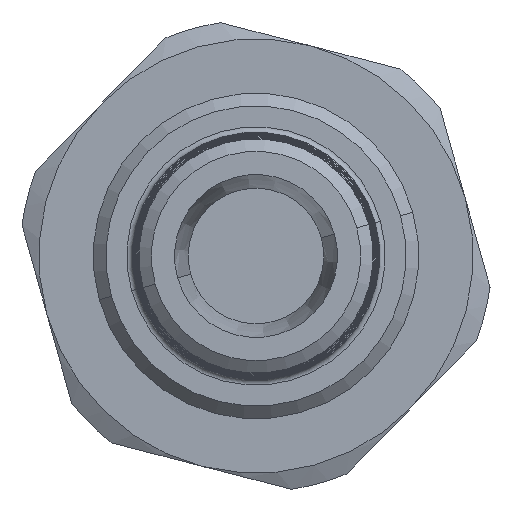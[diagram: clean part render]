
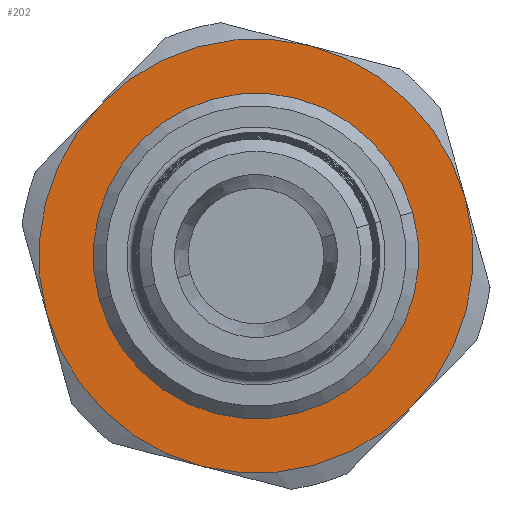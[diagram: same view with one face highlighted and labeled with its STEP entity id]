
A CAD part, left-side view. The second image highlights one B-rep face of the part: STEP entity #202.
In plain terms, the highlighted planar face has unit normal (-1, 0, 0) as drawn and (1, 0, 0) by its records, which use the part's own axes.
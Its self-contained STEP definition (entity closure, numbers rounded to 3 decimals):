
#202 = ADVANCED_FACE ( 'NONE', ( #3391, #3379 ), #1821, .F. ) ;
#692 = CARTESIAN_POINT ( 'NONE',  ( 11.603, 10.392, 6. ) ) ;
#744 = CARTESIAN_POINT ( 'NONE',  ( 11.603, 0., 12. ) ) ;
#783 = CARTESIAN_POINT ( 'NONE',  ( 11.603, 0., -8.998 ) ) ;
#798 = CARTESIAN_POINT ( 'NONE',  ( 11.603, -10.392, 6. ) ) ;
#808 = CARTESIAN_POINT ( 'NONE',  ( 11.603, 0., 8.998 ) ) ;
#817 = CARTESIAN_POINT ( 'NONE',  ( 11.603, 10.392, -6. ) ) ;
#834 = CARTESIAN_POINT ( 'NONE',  ( 11.603, -10.392, -6. ) ) ;
#835 = CARTESIAN_POINT ( 'NONE',  ( 11.603, 0., -12. ) ) ;
#1198 = DIRECTION ( 'NONE',  ( -1., 0., 0. ) ) ;
#1201 = CARTESIAN_POINT ( 'NONE',  ( 11.603, 0., 0. ) ) ;
#1202 = DIRECTION ( 'NONE',  ( 0., 0., 1. ) ) ;
#1791 = DIRECTION ( 'NONE',  ( 0., 0., 1. ) ) ;
#1807 = DIRECTION ( 'NONE',  ( -1., 0., 0. ) ) ;
#1813 = CARTESIAN_POINT ( 'NONE',  ( 11.603, 0., 0. ) ) ;
#1821 = PLANE ( 'NONE',  #4022 ) ;
#2021 = DIRECTION ( 'NONE',  ( -1., 0., 0. ) ) ;
#2029 = DIRECTION ( 'NONE',  ( 0., 0., 1. ) ) ;
#2031 = DIRECTION ( 'NONE',  ( -1., 0., 0. ) ) ;
#2041 = DIRECTION ( 'NONE',  ( 0., 0., 1. ) ) ;
#2046 = CARTESIAN_POINT ( 'NONE',  ( 11.603, 0., 0. ) ) ;
#2057 = CARTESIAN_POINT ( 'NONE',  ( 11.603, 0., 0. ) ) ;
#2110 = DIRECTION ( 'NONE',  ( -1., 0., 0. ) ) ;
#2112 = DIRECTION ( 'NONE',  ( 0., 0., 1. ) ) ;
#2114 = CARTESIAN_POINT ( 'NONE',  ( 11.603, 0., 0. ) ) ;
#2121 = CARTESIAN_POINT ( 'NONE',  ( 11.603, 0., 0. ) ) ;
#2123 = DIRECTION ( 'NONE',  ( -1., 0., 0. ) ) ;
#2128 = DIRECTION ( 'NONE',  ( -1., 0., 0. ) ) ;
#2147 = CARTESIAN_POINT ( 'NONE',  ( 11.603, 0., 0. ) ) ;
#2148 = DIRECTION ( 'NONE',  ( 0., 0., 1. ) ) ;
#2149 = DIRECTION ( 'NONE',  ( 0., 0., 1. ) ) ;
#2152 = CARTESIAN_POINT ( 'NONE',  ( 11.603, 0., 0. ) ) ;
#2162 = CARTESIAN_POINT ( 'NONE',  ( 11.603, 0., 0. ) ) ;
#2163 = DIRECTION ( 'NONE',  ( 0., 0., 1. ) ) ;
#2169 = DIRECTION ( 'NONE',  ( -1., 0., 0. ) ) ;
#2171 = DIRECTION ( 'NONE',  ( 0., 0., 1. ) ) ;
#2189 = DIRECTION ( 'NONE',  ( -1., 0., 0. ) ) ;
#2411 = EDGE_CURVE ( 'NONE', #5102, #5109, #3483, .T. ) ;
#2412 = EDGE_CURVE ( 'NONE', #5115, #5102, #3519, .T. ) ;
#2444 = EDGE_CURVE ( 'NONE', #5484, #5483, #3558, .T. ) ;
#2446 = EDGE_CURVE ( 'NONE', #5446, #5126, #3554, .T. ) ;
#2449 = EDGE_CURVE ( 'NONE', #5486, #5484, #3575, .T. ) ;
#2455 = EDGE_CURVE ( 'NONE', #5483, #5115, #3591, .T. ) ;
#2463 = EDGE_CURVE ( 'NONE', #5109, #5486, #3541, .T. ) ;
#3379 = FACE_BOUND ( 'NONE', #5419, .T. ) ;
#3391 = FACE_OUTER_BOUND ( 'NONE', #5172, .T. ) ;
#3483 = CIRCLE ( 'NONE', #4237, 12. ) ;
#3519 = CIRCLE ( 'NONE', #4281, 12. ) ;
#3541 = CIRCLE ( 'NONE', #4261, 12. ) ;
#3554 = CIRCLE ( 'NONE', #4256, 8.998 ) ;
#3558 = CIRCLE ( 'NONE', #4284, 12. ) ;
#3575 = CIRCLE ( 'NONE', #4270, 12. ) ;
#3591 = CIRCLE ( 'NONE', #4271, 12. ) ;
#3810 = CIRCLE ( 'NONE', #4401, 8.998 ) ;
#4022 = AXIS2_PLACEMENT_3D ( 'NONE', #1813, #1807, #1791 ) ;
#4237 = AXIS2_PLACEMENT_3D ( 'NONE', #2046, #2021, #2029 ) ;
#4256 = AXIS2_PLACEMENT_3D ( 'NONE', #2147, #2128, #2149 ) ;
#4261 = AXIS2_PLACEMENT_3D ( 'NONE', #2162, #2169, #2163 ) ;
#4270 = AXIS2_PLACEMENT_3D ( 'NONE', #2121, #2110, #2112 ) ;
#4271 = AXIS2_PLACEMENT_3D ( 'NONE', #2152, #2189, #2171 ) ;
#4281 = AXIS2_PLACEMENT_3D ( 'NONE', #2057, #2031, #2041 ) ;
#4284 = AXIS2_PLACEMENT_3D ( 'NONE', #2114, #2123, #2148 ) ;
#4401 = AXIS2_PLACEMENT_3D ( 'NONE', #1201, #1198, #1202 ) ;
#4886 = ORIENTED_EDGE ( 'NONE', *, *, #2444, .F. ) ;
#4894 = ORIENTED_EDGE ( 'NONE', *, *, #2412, .F. ) ;
#4906 = ORIENTED_EDGE ( 'NONE', *, *, #2449, .F. ) ;
#4907 = ORIENTED_EDGE ( 'NONE', *, *, #5787, .T. ) ;
#4920 = ORIENTED_EDGE ( 'NONE', *, *, #2411, .F. ) ;
#4922 = ORIENTED_EDGE ( 'NONE', *, *, #2455, .F. ) ;
#4927 = ORIENTED_EDGE ( 'NONE', *, *, #2446, .T. ) ;
#4930 = ORIENTED_EDGE ( 'NONE', *, *, #2463, .F. ) ;
#5102 = VERTEX_POINT ( 'NONE', #744 ) ;
#5109 = VERTEX_POINT ( 'NONE', #692 ) ;
#5115 = VERTEX_POINT ( 'NONE', #798 ) ;
#5126 = VERTEX_POINT ( 'NONE', #783 ) ;
#5172 = EDGE_LOOP ( 'NONE', ( #4920, #4894, #4922, #4886, #4906, #4930 ) ) ;
#5419 = EDGE_LOOP ( 'NONE', ( #4927, #4907 ) ) ;
#5446 = VERTEX_POINT ( 'NONE', #808 ) ;
#5483 = VERTEX_POINT ( 'NONE', #834 ) ;
#5484 = VERTEX_POINT ( 'NONE', #835 ) ;
#5486 = VERTEX_POINT ( 'NONE', #817 ) ;
#5787 = EDGE_CURVE ( 'NONE', #5126, #5446, #3810, .T. ) ;
